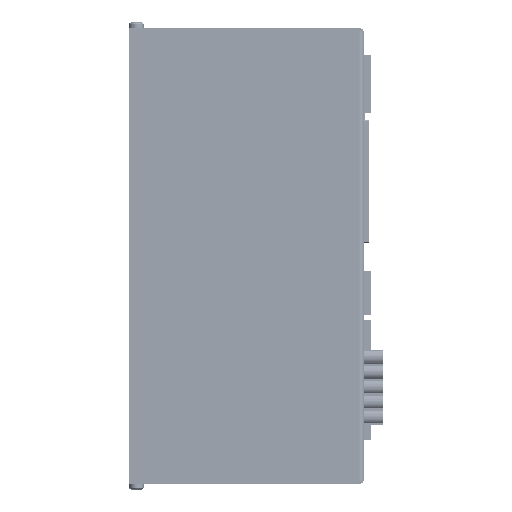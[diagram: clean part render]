
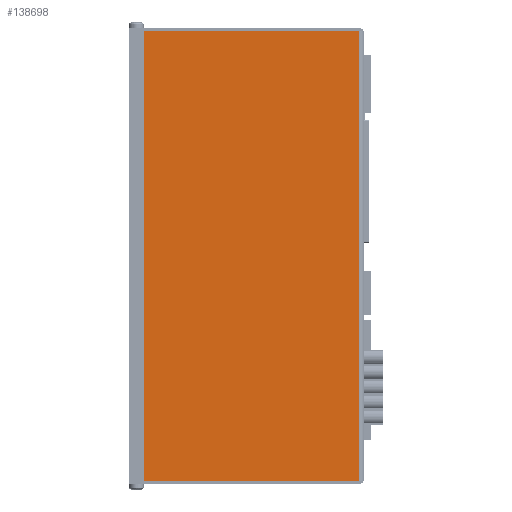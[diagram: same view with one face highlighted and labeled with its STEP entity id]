
A CAD part, left-side view. The second image highlights one B-rep face of the part: STEP entity #138698.
In plain terms, the highlighted planar face has unit normal (-1, 0, 0).
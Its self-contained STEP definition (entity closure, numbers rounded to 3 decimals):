
#34344=ORIENTED_EDGE('',*,*,#50362,.T.);
#34345=ORIENTED_EDGE('',*,*,#50354,.T.);
#34346=ORIENTED_EDGE('',*,*,#50359,.T.);
#34347=ORIENTED_EDGE('',*,*,#50366,.T.);
#50354=EDGE_CURVE('',#60695,#60698,#73136,.T.);
#50359=EDGE_CURVE('',#60698,#60700,#73141,.T.);
#50362=EDGE_CURVE('',#60701,#60695,#73144,.T.);
#50366=EDGE_CURVE('',#60700,#60701,#73148,.T.);
#60695=VERTEX_POINT('',#226148);
#60698=VERTEX_POINT('',#226154);
#60700=VERTEX_POINT('',#226163);
#60701=VERTEX_POINT('',#226170);
#73136=LINE('',#226155,#85577);
#73141=LINE('',#226164,#85582);
#73144=LINE('',#226169,#85585);
#73148=LINE('',#226176,#85589);
#85577=VECTOR('',#175993,1000.);
#85582=VECTOR('',#176002,1000.);
#85585=VECTOR('',#176009,1000.);
#85589=VECTOR('',#176015,1000.);
#92838=EDGE_LOOP('',(#34344,#34345,#34346,#34347));
#100090=FACE_BOUND('',#92838,.T.);
#104878=PLANE('',#147238);
#138698=ADVANCED_FACE('',(#100090),#104878,.T.);
#147238=AXIS2_PLACEMENT_3D('',#226178,#176018,#176019);
#175993=DIRECTION('',(0.,1.,0.));
#176002=DIRECTION('',(0.,0.,-1.));
#176009=DIRECTION('',(0.,0.,1.));
#176015=DIRECTION('',(0.,-1.,0.));
#176018=DIRECTION('',(-1.,0.,0.));
#176019=DIRECTION('',(0.,0.,1.));
#226148=CARTESIAN_POINT('',(-64.5,-76.498,-2.));
#226154=CARTESIAN_POINT('',(-64.5,76.498,-2.));
#226155=CARTESIAN_POINT('',(-64.5,-77.5,-2.));
#226163=CARTESIAN_POINT('',(-64.5,76.498,-75.));
#226164=CARTESIAN_POINT('',(-64.5,76.498,-0.955));
#226169=CARTESIAN_POINT('',(-64.5,-76.498,-0.955));
#226170=CARTESIAN_POINT('',(-64.5,-76.498,-75.));
#226176=CARTESIAN_POINT('',(-64.5,77.5,-75.));
#226178=CARTESIAN_POINT('',(-64.5,0.,0.));
